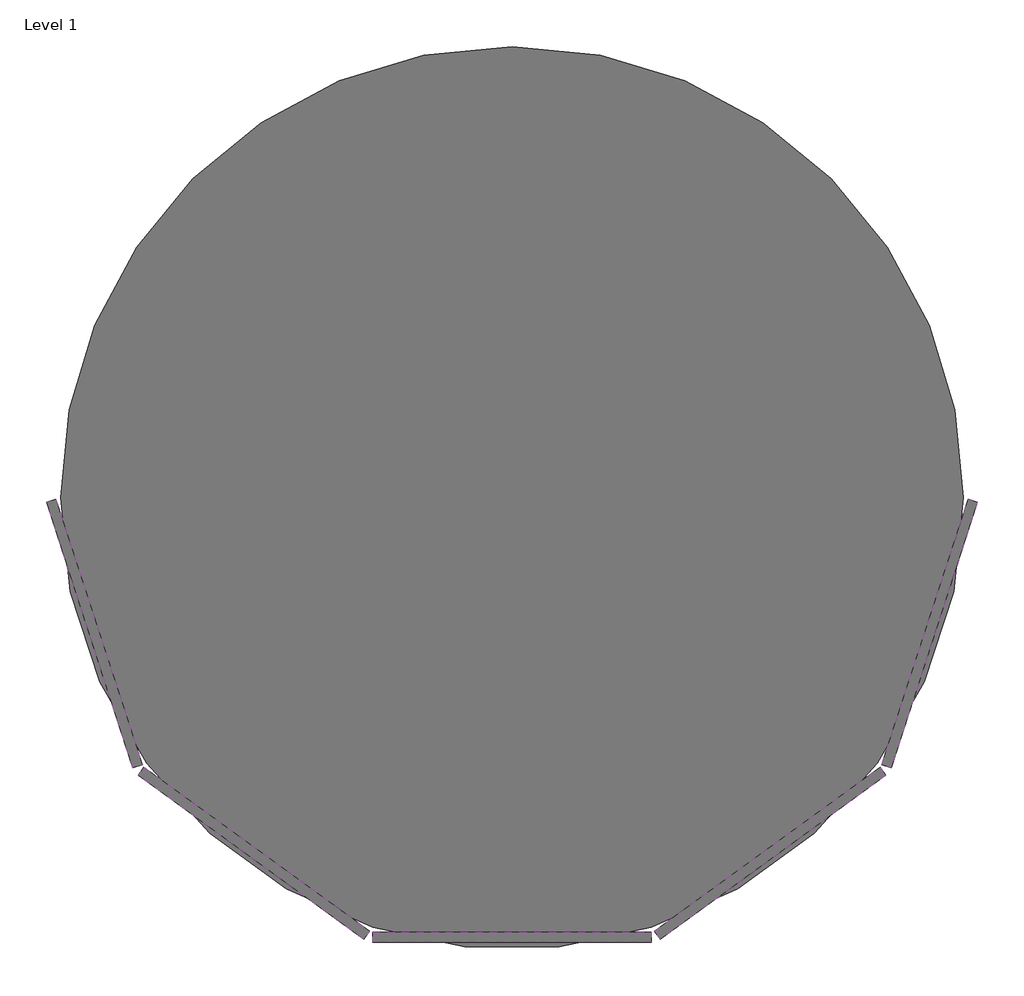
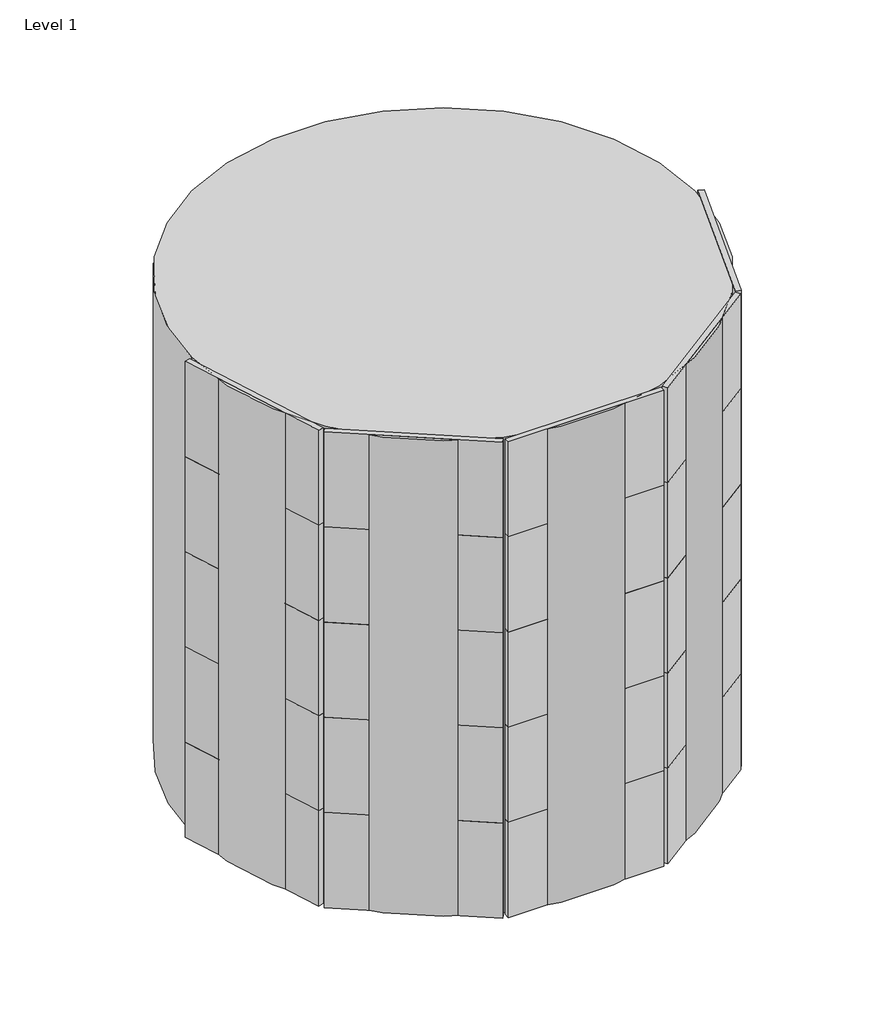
# One storey: 25 plates, 1 proxy.
"""IFC4 building model written with IfcOpenShell, lengths in millimetres."""

from ifc_helpers import new_model, si_unit, point, frame_2d, origin, origin_with_axes, place, context, project, spatial, circle_curve, trimmed, segment, composite_curve, outline, extrude, transform, mapped, element, save
from components import system_panel_glazed_71c66313

model = new_model("IFC4")

# Units and contexts
model_context = context("Model", 3, world=origin())
ifc_project = project(units=[si_unit("LENGTHUNIT", "METRE", prefix="MILLI")], contexts=[model_context])

# Site, building, storey
site = spatial("IfcSite", under=ifc_project)
building = spatial("IfcBuilding", under=site)
storey = spatial("IfcBuildingStorey", under=building, Name="Level 1", Elevation=0.0)

# Proxy
placement = place(None, origin())
element("IfcBuildingElementProxy", 1, Name="Cylinder : Cylinder", ObjectType="Cylinder : Cylinder", at=placement, inside=storey, context=model_context, shape_type="SweptSolid", body=[
    extrude(outline(composite_curve([segment(trimmed(circle_curve(frame_2d((2764.6256269, 1155.6477242)), 4572.0), [point((-1807.3743731, 1155.6477242))], [point((7336.6256269, 1155.6477242))], False, "CARTESIAN"), True, "CONTINUOUS"), segment(trimmed(circle_curve(frame_2d((2764.6256269, 1155.6477242)), 4572.0), [point((7336.6256269, 1155.6477242))], [point((-1807.3743731, 1155.6477242))], False, "CARTESIAN"), True, "CONTINUOUS")], self_intersect=False)), origin_with_axes(), (0.0, 0.0, 1.0), 9144.0),
])

# Plates
system_panel_glazed_shape = system_panel_glazed_71c66313(model_context)
element("IfcPlate", 2, ObjectType="System Panel : Glazed", at=placement, inside=storey, context=model_context, shape_type="MappedRepresentation", body=[
    mapped(system_panel_glazed_shape, transform((-1370.7872214, -188.0293637, 0.0), x_axis=(0.3090169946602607, -0.9510565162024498, 0.0), y_axis=(0.9510565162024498, 0.3090169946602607, 0.0), z_axis=(0.0, 0.0, 1.0))),
])
element("IfcPlate", 3, ObjectType="System Panel : Glazed", at=placement, inside=storey, context=model_context, shape_type="MappedRepresentation", body=[
    mapped(system_panel_glazed_shape, transform((208.7999299, -2362.1445601, 0.0), x_axis=(0.8090169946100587, -0.5877852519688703, 0.0), y_axis=(0.5877852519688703, 0.8090169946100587, 0.0), z_axis=(0.0, 0.0, 1.0))),
])
element("IfcPlate", 4, ObjectType="System Panel : Glazed", at=placement, inside=storey, context=model_context, shape_type="MappedRepresentation", body=[
    mapped(system_panel_glazed_shape, transform((2764.6256269, -3192.5826686, 0.0), x_axis=(1.0, 0.0, 0.0), y_axis=(0.0, 1.0, 0.0), z_axis=(0.0, 0.0, 1.0))),
])
element("IfcPlate", 5, ObjectType="System Panel : Glazed", at=placement, inside=storey, context=model_context, shape_type="MappedRepresentation", body=[
    mapped(system_panel_glazed_shape, transform((5320.451324, -2362.1445601, 0.0), x_axis=(0.8090169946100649, 0.5877852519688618, 0.0), y_axis=(-0.5877852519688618, 0.8090169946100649, 0.0), z_axis=(0.0, 0.0, 1.0))),
])
element("IfcPlate", 6, ObjectType="System Panel : Glazed", at=placement, inside=storey, context=model_context, shape_type="MappedRepresentation", body=[
    mapped(system_panel_glazed_shape, transform((6900.0384753, -188.0293637, 0.0), x_axis=(0.30901699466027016, 0.9510565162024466, 0.0), y_axis=(-0.9510565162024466, 0.30901699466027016, 0.0), z_axis=(0.0, 0.0, 1.0))),
])
element("IfcPlate", 7, ObjectType="System Panel : Glazed", at=placement, inside=storey, context=model_context, shape_type="MappedRepresentation", body=[
    mapped(system_panel_glazed_shape, transform((-1370.7872214, -188.0293637, 1828.8), x_axis=(0.3090169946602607, -0.9510565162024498, 0.0), y_axis=(0.9510565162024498, 0.3090169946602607, 0.0), z_axis=(0.0, 0.0, 1.0))),
])
element("IfcPlate", 8, ObjectType="System Panel : Glazed", at=placement, inside=storey, context=model_context, shape_type="MappedRepresentation", body=[
    mapped(system_panel_glazed_shape, transform((208.7999299, -2362.1445601, 1828.8), x_axis=(0.8090169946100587, -0.5877852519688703, 0.0), y_axis=(0.5877852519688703, 0.8090169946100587, 0.0), z_axis=(0.0, 0.0, 1.0))),
])
element("IfcPlate", 9, ObjectType="System Panel : Glazed", at=placement, inside=storey, context=model_context, shape_type="MappedRepresentation", body=[
    mapped(system_panel_glazed_shape, transform((2764.6256269, -3192.5826686, 1828.8), x_axis=(1.0, 0.0, 0.0), y_axis=(0.0, 1.0, 0.0), z_axis=(0.0, 0.0, 1.0))),
])
element("IfcPlate", 10, ObjectType="System Panel : Glazed", at=placement, inside=storey, context=model_context, shape_type="MappedRepresentation", body=[
    mapped(system_panel_glazed_shape, transform((5320.451324, -2362.1445601, 1828.8), x_axis=(0.8090169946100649, 0.5877852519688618, 0.0), y_axis=(-0.5877852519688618, 0.8090169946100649, 0.0), z_axis=(0.0, 0.0, 1.0))),
])
element("IfcPlate", 11, ObjectType="System Panel : Glazed", at=placement, inside=storey, context=model_context, shape_type="MappedRepresentation", body=[
    mapped(system_panel_glazed_shape, transform((6900.0384753, -188.0293637, 1828.8), x_axis=(0.30901699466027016, 0.9510565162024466, 0.0), y_axis=(-0.9510565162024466, 0.30901699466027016, 0.0), z_axis=(0.0, 0.0, 1.0))),
])
element("IfcPlate", 12, ObjectType="System Panel : Glazed", at=placement, inside=storey, context=model_context, shape_type="MappedRepresentation", body=[
    mapped(system_panel_glazed_shape, transform((-1370.7872214, -188.0293637, 3657.6), x_axis=(0.3090169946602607, -0.9510565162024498, 0.0), y_axis=(0.9510565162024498, 0.3090169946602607, 0.0), z_axis=(0.0, 0.0, 1.0))),
])
element("IfcPlate", 13, ObjectType="System Panel : Glazed", at=placement, inside=storey, context=model_context, shape_type="MappedRepresentation", body=[
    mapped(system_panel_glazed_shape, transform((208.7999299, -2362.1445601, 3657.6), x_axis=(0.8090169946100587, -0.5877852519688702, 0.0), y_axis=(0.5877852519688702, 0.8090169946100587, 0.0), z_axis=(0.0, 0.0, 1.0))),
])
element("IfcPlate", 14, ObjectType="System Panel : Glazed", at=placement, inside=storey, context=model_context, shape_type="MappedRepresentation", body=[
    mapped(system_panel_glazed_shape, transform((2764.6256269, -3192.5826686, 3657.6), x_axis=(1.0, 0.0, 0.0), y_axis=(0.0, 1.0, 0.0), z_axis=(0.0, 0.0, 1.0))),
])
element("IfcPlate", 15, ObjectType="System Panel : Glazed", at=placement, inside=storey, context=model_context, shape_type="MappedRepresentation", body=[
    mapped(system_panel_glazed_shape, transform((5320.451324, -2362.1445601, 3657.6), x_axis=(0.8090169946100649, 0.5877852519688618, 0.0), y_axis=(-0.5877852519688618, 0.8090169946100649, 0.0), z_axis=(0.0, 0.0, 1.0))),
])
element("IfcPlate", 16, ObjectType="System Panel : Glazed", at=placement, inside=storey, context=model_context, shape_type="MappedRepresentation", body=[
    mapped(system_panel_glazed_shape, transform((6900.0384753, -188.0293637, 3657.6), x_axis=(0.3090169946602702, 0.9510565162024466, 0.0), y_axis=(-0.9510565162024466, 0.3090169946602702, 0.0), z_axis=(0.0, 0.0, 1.0))),
])
element("IfcPlate", 17, ObjectType="System Panel : Glazed", at=placement, inside=storey, context=model_context, shape_type="MappedRepresentation", body=[
    mapped(system_panel_glazed_shape, transform((-1370.7872214, -188.0293637, 5486.4), x_axis=(0.30901699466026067, -0.9510565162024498, 0.0), y_axis=(0.9510565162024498, 0.30901699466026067, 0.0), z_axis=(0.0, 0.0, 1.0))),
])
element("IfcPlate", 18, ObjectType="System Panel : Glazed", at=placement, inside=storey, context=model_context, shape_type="MappedRepresentation", body=[
    mapped(system_panel_glazed_shape, transform((208.7999299, -2362.1445601, 5486.4), x_axis=(0.8090169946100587, -0.5877852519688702, 0.0), y_axis=(0.5877852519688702, 0.8090169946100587, 0.0), z_axis=(0.0, 0.0, 1.0))),
])
element("IfcPlate", 19, ObjectType="System Panel : Glazed", at=placement, inside=storey, context=model_context, shape_type="MappedRepresentation", body=[
    mapped(system_panel_glazed_shape, transform((2764.6256269, -3192.5826686, 5486.4), x_axis=(1.0, 0.0, 0.0), y_axis=(0.0, 1.0, 0.0), z_axis=(0.0, 0.0, 1.0))),
])
element("IfcPlate", 20, ObjectType="System Panel : Glazed", at=placement, inside=storey, context=model_context, shape_type="MappedRepresentation", body=[
    mapped(system_panel_glazed_shape, transform((5320.451324, -2362.1445601, 5486.4), x_axis=(0.8090169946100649, 0.5877852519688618, 0.0), y_axis=(-0.5877852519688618, 0.8090169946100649, 0.0), z_axis=(0.0, 0.0, 1.0))),
])
element("IfcPlate", 21, ObjectType="System Panel : Glazed", at=placement, inside=storey, context=model_context, shape_type="MappedRepresentation", body=[
    mapped(system_panel_glazed_shape, transform((6900.0384753, -188.0293637, 5486.4), x_axis=(0.30901699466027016, 0.9510565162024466, 0.0), y_axis=(-0.9510565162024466, 0.30901699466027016, 0.0), z_axis=(0.0, 0.0, 1.0))),
])
element("IfcPlate", 22, ObjectType="System Panel : Glazed", at=placement, inside=storey, context=model_context, shape_type="MappedRepresentation", body=[
    mapped(system_panel_glazed_shape, transform((-1370.7872214, -188.0293637, 7315.2), x_axis=(0.30901699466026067, -0.9510565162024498, 0.0), y_axis=(0.9510565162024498, 0.30901699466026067, 0.0), z_axis=(0.0, 0.0, 1.0))),
])
element("IfcPlate", 23, ObjectType="System Panel : Glazed", at=placement, inside=storey, context=model_context, shape_type="MappedRepresentation", body=[
    mapped(system_panel_glazed_shape, transform((208.7999299, -2362.1445601, 7315.2), x_axis=(0.8090169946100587, -0.5877852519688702, 0.0), y_axis=(0.5877852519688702, 0.8090169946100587, 0.0), z_axis=(0.0, 0.0, 1.0))),
])
element("IfcPlate", 24, ObjectType="System Panel : Glazed", at=placement, inside=storey, context=model_context, shape_type="MappedRepresentation", body=[
    mapped(system_panel_glazed_shape, transform((2764.6256269, -3192.5826686, 7315.2), x_axis=(1.0, 0.0, 0.0), y_axis=(0.0, 1.0, 0.0), z_axis=(0.0, 0.0, 1.0))),
])
element("IfcPlate", 25, ObjectType="System Panel : Glazed", at=placement, inside=storey, context=model_context, shape_type="MappedRepresentation", body=[
    mapped(system_panel_glazed_shape, transform((5320.451324, -2362.1445601, 7315.2), x_axis=(0.8090169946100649, 0.5877852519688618, 0.0), y_axis=(-0.5877852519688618, 0.8090169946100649, 0.0), z_axis=(0.0, 0.0, 1.0))),
])
element("IfcPlate", 26, ObjectType="System Panel : Glazed", at=placement, inside=storey, context=model_context, shape_type="MappedRepresentation", body=[
    mapped(system_panel_glazed_shape, transform((6900.0384753, -188.0293637, 7315.2), x_axis=(0.30901699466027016, 0.9510565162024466, 0.0), y_axis=(-0.9510565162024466, 0.30901699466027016, 0.0), z_axis=(0.0, 0.0, 1.0))),
])

save(model, "model.ifc")
